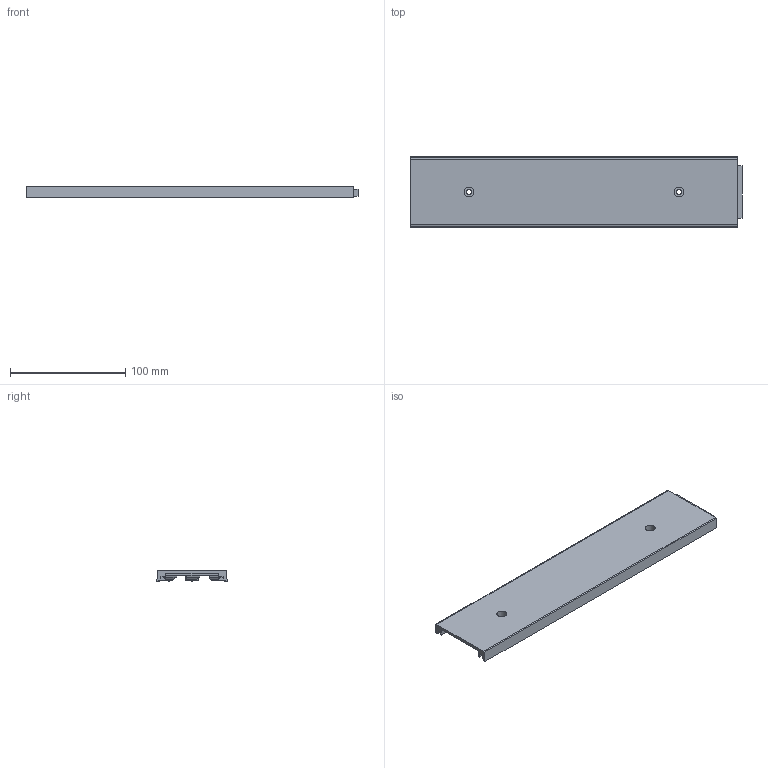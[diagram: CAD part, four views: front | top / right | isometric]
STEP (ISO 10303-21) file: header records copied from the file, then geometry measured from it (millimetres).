
FILE_DESCRIPTION(/* description */ ('Unknown'),/* implementation_level */ '2;1');
FILE_NAME(/* name */ '021-B0L-05',/* time_stamp */ '2025-06-23T13:38:51+02:00',/* author */ ('Unknown'),/* organization */ ('Unknown'),/* preprocessor_version */ 'ST-DEVELOPER v16.7',/* originating_system */ 'Solid Edge',/* authorisation */ 'Unknown');
FILE_SCHEMA (('AUTOMOTIVE_DESIGN {1 0 10303 214 3 1 1}'));
Products named in the file (1): 021-B0L-05
Bounding box: 287.8 x 61 x 9.95 mm (x, y, z)
Volume: 73068.6 mm3; surface area: 54211.6 mm2
Topology: 1 solids, 1 shells, 1734 faces, 4735 edges, 3093 vertices
Faces by surface type: plane 1137, bspline 486, cylinder 111
Full cylindrical faces by diameter (mm): 1.3 x2, 4.5 x2, 6 x1, 8.5 x2, 11 x2
Entity records: 71563 total; most frequent: CARTESIAN_POINT 19468, ORIENTED_EDGE 9432, DIRECTION 6193, EDGE_CURVE 4716, LINE 3333, VECTOR 3333, VERTEX_POINT 3087, EDGE_LOOP 1841
